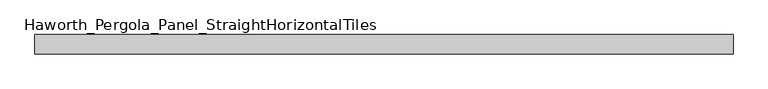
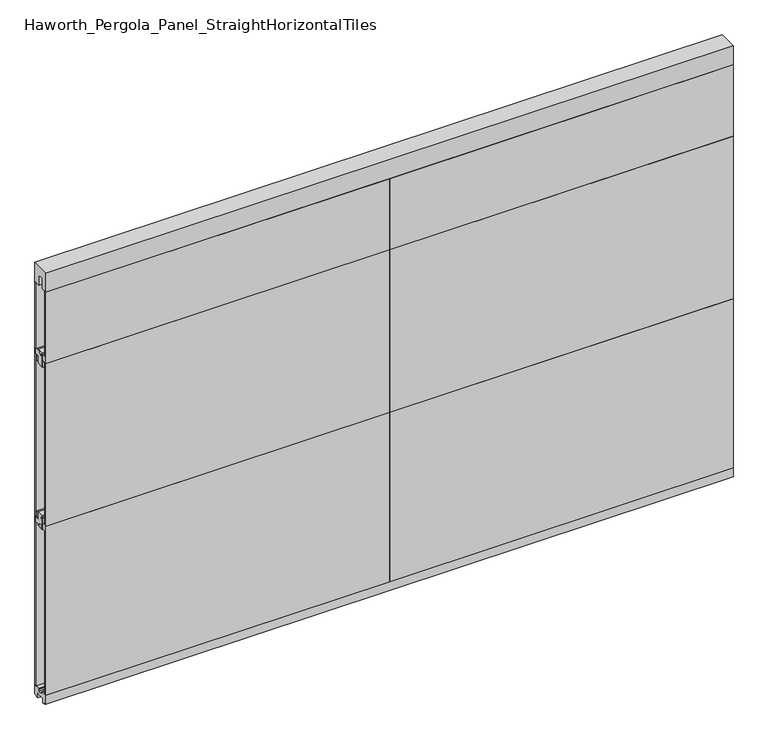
"""IFC4 building model written with IfcOpenShell, lengths in millimetres: furniture geometry, Haworth_Pergola_Panel_StraightHorizontalTiles : Horizontal Tiles (40h 36h 16h)- 96h 144w."""

from ifc_helpers import new_model, si_unit, frame, origin, place, context, project, spatial, polyline, outline, extrude, source, transform, mapped, element, save


def haworth_pergola_panel_straighthorizontaltiles_3a19913a(model_context):
    return source(origin(), model_context, "Body", "SweptSolid", [
        extrude(outline(polyline([(12.7, 984.25), (12.7, 996.95), (-12.7, 996.95), (-12.7, 984.25), (-44.45, 984.25), (-44.45, 1016.0), (-19.05, 1016.0), (-19.05, 1054.1), (19.05, 1054.1), (19.05, 1016.0), (44.45, 1016.0), (44.45, 984.25), (12.7, 984.25)])), frame((38.1, 0.0, 0.0), z_axis=(1.0, 0.0, 0.0), x_axis=(0.0, 1.0, 0.0)), (0.0, 0.0, 1.0), 1828.8),
        extrude(outline(polyline([(12.7, 1962.15), (44.45, 1962.15), (44.45, 1930.4), (19.05, 1930.4), (19.05, 1892.3), (-19.05, 1892.3), (-19.05, 1930.4), (-44.45, 1930.4), (-44.45, 1962.15), (-12.7, 1962.15), (-12.7, 1949.45), (12.7, 1949.45), (12.7, 1962.15)])), frame((38.1, 0.0, 0.0), z_axis=(1.0, 0.0, 0.0), x_axis=(0.0, 1.0, 0.0)), (0.0, 0.0, 1.0), 1828.8),
        extrude(outline(polyline([(38.1, 50.8), (1866.9, 50.8), (1866.9, 38.1), (38.1, 38.1), (38.1, 50.8)])), frame((0.0, 0.0, 1016.0), z_axis=(0.0, 0.0, 1.0), x_axis=(1.0, 0.0, 0.0)), (0.0, 0.0, 1.0), 914.4),
        extrude(outline(polyline([(38.1, -38.1), (1866.9, -38.1), (1866.9, -50.8), (38.1, -50.8), (38.1, -38.1)])), frame((0.0, 0.0, 1016.0), z_axis=(0.0, 0.0, 1.0), x_axis=(1.0, 0.0, 0.0)), (0.0, 0.0, 1.0), 914.4),
        extrude(outline(polyline([(12.7, 1898.65), (12.7, 1911.35), (-12.7, 1911.35), (-12.7, 1898.65), (-44.45, 1898.65), (-44.45, 1930.4), (-19.05, 1930.4), (-19.05, 1968.5), (19.05, 1968.5), (19.05, 1930.4), (44.45, 1930.4), (44.45, 1898.65), (12.7, 1898.65)])), frame((38.1, 0.0, 0.0), z_axis=(1.0, 0.0, 0.0), x_axis=(0.0, 1.0, 0.0)), (0.0, 0.0, 1.0), 1828.8),
        extrude(outline(polyline([(38.1, 50.8), (1866.9, 50.8), (1866.9, 38.1), (38.1, 38.1), (38.1, 50.8)])), frame((0.0, 0.0, 1930.4), z_axis=(0.0, 0.0, 1.0), x_axis=(1.0, 0.0, 0.0)), (0.0, 0.0, 1.0), 401.4390625),
        extrude(outline(polyline([(38.1, -38.1), (1866.9, -38.1), (1866.9, -50.8), (38.1, -50.8), (38.1, -38.1)])), frame((0.0, 0.0, 1930.4), z_axis=(0.0, 0.0, 1.0), x_axis=(1.0, 0.0, 0.0)), (0.0, 0.0, 1.0), 401.4390625),
        extrude(outline(polyline([(12.7, 1047.75), (44.45, 1047.75), (44.45, 1016.0), (19.05, 1016.0), (19.05, 977.9), (-19.05, 977.9), (-19.05, 1016.0), (-44.45, 1016.0), (-44.45, 1047.75), (-12.7, 1047.75), (-12.7, 1035.05), (12.7, 1035.05), (12.7, 1047.75)])), frame((38.1, 0.0, 0.0), z_axis=(1.0, 0.0, 0.0), x_axis=(0.0, 1.0, 0.0)), (0.0, 0.0, 1.0), 1828.8),
        extrude(outline(polyline([(38.1, 50.8), (1866.9, 50.8), (1866.9, 38.1), (38.1, 38.1), (38.1, 50.8)])), frame((0.0, 0.0, 63.5), z_axis=(0.0, 0.0, 1.0), x_axis=(1.0, 0.0, 0.0)), (0.0, 0.0, 1.0), 952.5),
        extrude(outline(polyline([(38.1, -38.1), (1866.9, -38.1), (1866.9, -50.8), (38.1, -50.8), (38.1, -38.1)])), frame((0.0, 0.0, 63.5), z_axis=(0.0, 0.0, 1.0), x_axis=(1.0, 0.0, 0.0)), (0.0, 0.0, 1.0), 952.5),
        extrude(outline(polyline([(12.7, 984.25), (12.7, 996.95), (-12.7, 996.95), (-12.7, 984.25), (-44.45, 984.25), (-44.45, 1016.0), (-19.05, 1016.0), (-19.05, 1054.1), (19.05, 1054.1), (19.05, 1016.0), (44.45, 1016.0), (44.45, 984.25), (12.7, 984.25)])), frame((-1790.7, 0.0, 0.0), z_axis=(1.0, 0.0, 0.0), x_axis=(0.0, 1.0, 0.0)), (0.0, 0.0, 1.0), 1828.8),
        extrude(outline(polyline([(12.7, 1962.15), (44.45, 1962.15), (44.45, 1930.4), (19.05, 1930.4), (19.05, 1892.3), (-19.05, 1892.3), (-19.05, 1930.4), (-44.45, 1930.4), (-44.45, 1962.15), (-12.7, 1962.15), (-12.7, 1949.45), (12.7, 1949.45), (12.7, 1962.15)])), frame((-1790.7, 0.0, 0.0), z_axis=(1.0, 0.0, 0.0), x_axis=(0.0, 1.0, 0.0)), (0.0, 0.0, 1.0), 1828.8),
        extrude(outline(polyline([(-1790.7, 50.8), (38.1, 50.8), (38.1, 38.1), (-1790.7, 38.1), (-1790.7, 50.8)])), frame((0.0, 0.0, 1016.0), z_axis=(0.0, 0.0, 1.0), x_axis=(1.0, 0.0, 0.0)), (0.0, 0.0, 1.0), 914.4),
        extrude(outline(polyline([(-1790.7, -38.1), (38.1, -38.1), (38.1, -50.8), (-1790.7, -50.8), (-1790.7, -38.1)])), frame((0.0, 0.0, 1016.0), z_axis=(0.0, 0.0, 1.0), x_axis=(1.0, 0.0, 0.0)), (0.0, 0.0, 1.0), 914.4),
        extrude(outline(polyline([(12.7, 1898.65), (12.7, 1911.35), (-12.7, 1911.35), (-12.7, 1898.65), (-44.45, 1898.65), (-44.45, 1930.4), (-19.05, 1930.4), (-19.05, 1968.5), (19.05, 1968.5), (19.05, 1930.4), (44.45, 1930.4), (44.45, 1898.65), (12.7, 1898.65)])), frame((-1790.7, 0.0, 0.0), z_axis=(1.0, 0.0, 0.0), x_axis=(0.0, 1.0, 0.0)), (0.0, 0.0, 1.0), 1828.8),
        extrude(outline(polyline([(-1790.7, 50.8), (38.1, 50.8), (38.1, 38.1), (-1790.7, 38.1), (-1790.7, 50.8)])), frame((0.0, 0.0, 1930.4), z_axis=(0.0, 0.0, 1.0), x_axis=(1.0, 0.0, 0.0)), (0.0, 0.0, 1.0), 401.4390625),
        extrude(outline(polyline([(-1790.7, -38.1), (38.1, -38.1), (38.1, -50.8), (-1790.7, -50.8), (-1790.7, -38.1)])), frame((0.0, 0.0, 1930.4), z_axis=(0.0, 0.0, 1.0), x_axis=(1.0, 0.0, 0.0)), (0.0, 0.0, 1.0), 401.4390625),
        extrude(outline(polyline([(12.7, 1047.75), (44.45, 1047.75), (44.45, 1016.0), (19.05, 1016.0), (19.05, 977.9), (-19.05, 977.9), (-19.05, 1016.0), (-44.45, 1016.0), (-44.45, 1047.75), (-12.7, 1047.75), (-12.7, 1035.05), (12.7, 1035.05), (12.7, 1047.75)])), frame((-1790.7, 0.0, 0.0), z_axis=(1.0, 0.0, 0.0), x_axis=(0.0, 1.0, 0.0)), (0.0, 0.0, 1.0), 1828.8),
        extrude(outline(polyline([(-1790.7, 50.8), (38.1, 50.8), (38.1, 38.1), (-1790.7, 38.1), (-1790.7, 50.8)])), frame((0.0, 0.0, 63.5), z_axis=(0.0, 0.0, 1.0), x_axis=(1.0, 0.0, 0.0)), (0.0, 0.0, 1.0), 952.5),
        extrude(outline(polyline([(-1790.7, -38.1), (38.1, -38.1), (38.1, -50.8), (-1790.7, -50.8), (-1790.7, -38.1)])), frame((0.0, 0.0, 63.5), z_axis=(0.0, 0.0, 1.0), x_axis=(1.0, 0.0, 0.0)), (0.0, 0.0, 1.0), 952.5),
        extrude(outline(polyline([(-50.8, 2438.4), (50.8, 2438.4), (50.8, 2331.8390625), (15.2182948, 2331.8390625), (15.2182948, 2388.7001663), (-15.2182948, 2388.7001663), (-15.2182948, 2331.8390625), (-50.8, 2331.8390625), (-50.8, 2438.4)])), frame((-1790.7, 0.0, 0.0), z_axis=(1.0, 0.0, 0.0), x_axis=(0.0, 1.0, 0.0)), (0.0, 0.0, 1.0), 3657.6),
        extrude(outline(polyline([(-16.2000002, 63.5), (-16.5085717, 61.7499999), (-13.3999996, 61.7499999), (-13.3999996, 58.8973461), (-15.4000002, 59.2499999), (-15.4000002, 48.3500004), (15.4000003, 48.3500004), (15.4000003, 59.2499999), (13.3999997, 58.8973461), (13.3999997, 61.7499999), (16.5085718, 61.7499999), (16.2000003, 63.5), (50.0000004, 63.5), (50.0000004, 12.6999985), (40.9499987, 12.6999985), (38.9499981, 10.6999979), (28.9499999, 10.6999979), (28.9499999, 7.6999994), (38.9499981, 7.6999994), (38.9499981, 5.6999988), (23.7499993, 5.6999988), (23.7499993, 31.4500009), (-23.7499992, 31.4500009), (-23.7499992, 5.6999988), (-38.949998, 5.6999988), (-38.949998, 7.6999994), (-28.9499998, 7.6999994), (-28.9499998, 10.6999979), (-38.949998, 10.6999979), (-40.9499986, 12.6999985), (-50.0000003, 12.6999985), (-50.0000003, 63.5), (-16.2000002, 63.5)])), frame((-1790.7, 0.0, 0.0), z_axis=(1.0, 0.0, 0.0), x_axis=(0.0, 1.0, 0.0)), (0.0, 0.0, 1.0), 3657.6),
    ])


if __name__ == "__main__":
    model = new_model("IFC4")
    model_context = context("Model", 3, world=origin())
    ifc_project = project(units=[si_unit("LENGTHUNIT", "METRE", prefix="MILLI")], contexts=[model_context])
    site = spatial("IfcSite", under=ifc_project)
    building = spatial("IfcBuilding", under=site)
    placement = place(None, origin())
    haworth_pergola_panel_straighthorizontaltiles_shape = haworth_pergola_panel_straighthorizontaltiles_3a19913a(model_context)
    element("IfcFurniture", 1, ObjectType="Haworth_Pergola_Panel_StraightHorizontalTiles : Horizontal Tiles (40h 36h 16h)- 96h 144w", at=placement, inside=building, context=model_context, shape_type="MappedRepresentation", body=[
        mapped(haworth_pergola_panel_straighthorizontaltiles_shape, transform((0.0, 0.0, 0.0), x_axis=(1.0, 0.0, 0.0), y_axis=(0.0, 1.0, 0.0), z_axis=(0.0, 0.0, 1.0))),
    ])
    save(model, "model.ifc")
